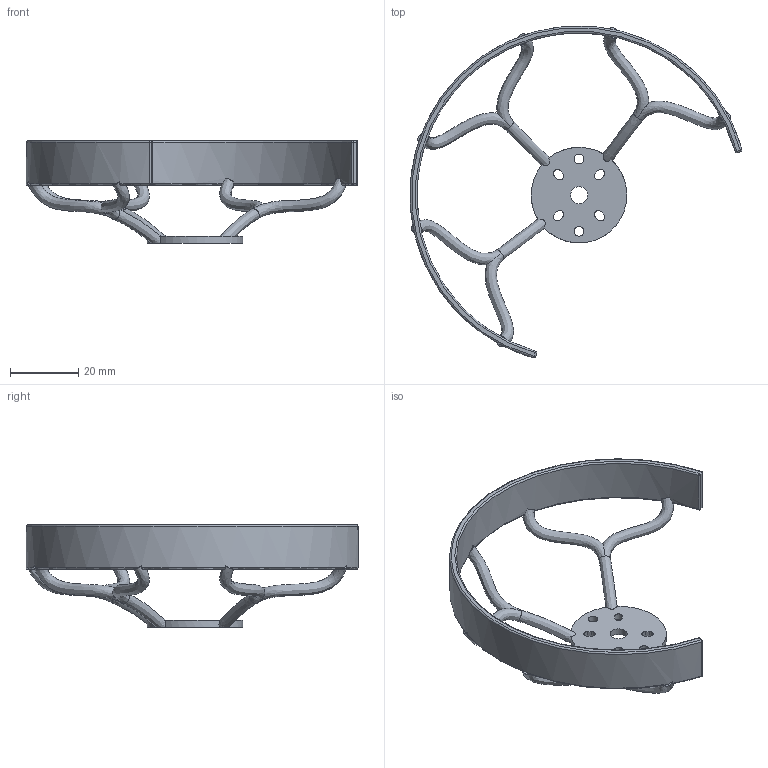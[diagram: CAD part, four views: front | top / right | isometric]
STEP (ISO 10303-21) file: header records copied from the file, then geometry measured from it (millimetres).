
FILE_DESCRIPTION(('Open CASCADE Model'),'2;1');
FILE_NAME('Open CASCADE Shape Model','2026-10-11T00:34:01',('Author'),( 'Open CASCADE'),'Open CASCADE STEP processor 7.8','Open CASCADE 7.8' ,'Unknown');
FILE_SCHEMA(('AUTOMOTIVE_DESIGN { 1 0 10303 214 1 1 1 1 }'));
Length unit declared in the file: millimetre
Products named in the file (1): Open CASCADE STEP translator 7.8 5
Bounding box: 97.2 x 97.2 x 30 mm (x, y, z)
Volume: 8372.1 mm3; surface area: 9709.2 mm2
Topology: 1 solids, 1 shells, 105 faces, 308 edges, 186 vertices
Faces by surface type: plane 47, cylinder 25, torus 16, bspline 9, sphere 8
Full cylindrical faces by diameter (mm): 2.8 x2, 5 x1
Entity records: 24304 total; most frequent: CARTESIAN_POINT 19039, DIRECTION 809, ORIENTED_EDGE 598, PCURVE 598, DEFINITIONAL_REPRESENTATION 598, LINE 365, VECTOR 365, B_SPLINE_CURVE_WITH_KNOTS 300
